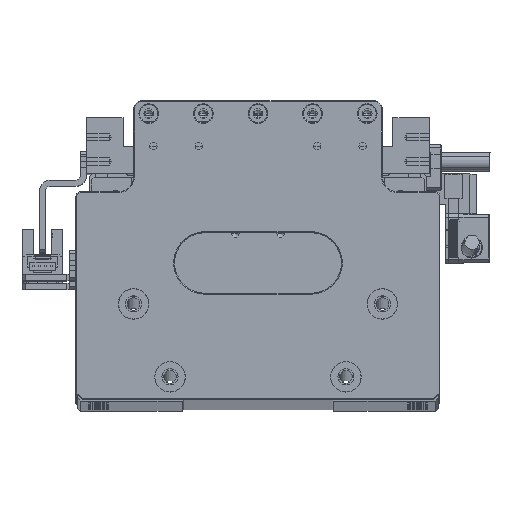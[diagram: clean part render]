
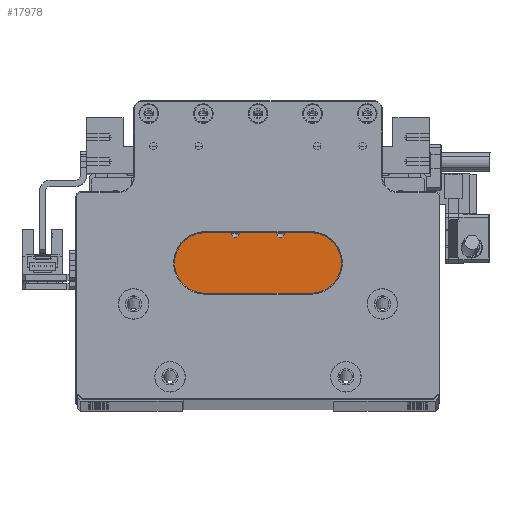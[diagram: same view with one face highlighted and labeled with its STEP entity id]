
A CAD part, top view. The second image highlights one B-rep face of the part: STEP entity #17978.
In plain terms, the highlighted planar face has unit normal (0, 0, 1).
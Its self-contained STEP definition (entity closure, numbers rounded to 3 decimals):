
#385 = FACE_BOUND ( 'NONE', #61918, .T. ) ;
#788 = EDGE_CURVE ( 'NONE', #38252, #77217, #49127, .T. ) ;
#1752 = EDGE_CURVE ( 'NONE', #101560, #66668, #42901, .T. ) ;
#6243 = ORIENTED_EDGE ( 'NONE', *, *, #83166, .T. ) ;
#6676 = VERTEX_POINT ( 'NONE', #123460 ) ;
#8572 = LINE ( 'NONE', #43003, #112143 ) ;
#9404 = CARTESIAN_POINT ( 'NONE',  ( -23.132, -17.023, 340. ) ) ;
#10060 = VECTOR ( 'NONE', #20330, 1000. ) ;
#10254 = CARTESIAN_POINT ( 'NONE',  ( -4.632, -17.023, 340. ) ) ;
#10432 = CARTESIAN_POINT ( 'NONE',  ( 25.168, -9.023, 340. ) ) ;
#10811 = AXIS2_PLACEMENT_3D ( 'NONE', #109708, #49633, #119751 ) ;
#11963 = DIRECTION ( 'NONE',  ( 0., 0., -1. ) ) ;
#12293 = EDGE_CURVE ( 'NONE', #37888, #34030, #53199, .T. ) ;
#13573 = VERTEX_POINT ( 'NONE', #130051 ) ;
#14791 = EDGE_CURVE ( 'NONE', #34030, #30795, #121655, .T. ) ;
#14899 = ORIENTED_EDGE ( 'NONE', *, *, #49570, .T. ) ;
#14935 = VECTOR ( 'NONE', #105907, 1000. ) ;
#17978 = ADVANCED_FACE ( 'NONE', ( #107111, #385, #33358 ), #40661, .T. ) ;
#19644 = VECTOR ( 'NONE', #70583, 1000. ) ;
#20330 = DIRECTION ( 'NONE',  ( -1., 0., 0. ) ) ;
#20859 = DIRECTION ( 'NONE',  ( 0., 0., 1. ) ) ;
#28572 = DIRECTION ( 'NONE',  ( 0., -1., 0. ) ) ;
#30522 = VECTOR ( 'NONE', #86237, 1000. ) ;
#30795 = VERTEX_POINT ( 'NONE', #64056 ) ;
#33075 = EDGE_CURVE ( 'NONE', #30795, #6676, #66933, .T. ) ;
#33358 = FACE_BOUND ( 'NONE', #110565, .T. ) ;
#34030 = VERTEX_POINT ( 'NONE', #9404 ) ;
#36746 = LINE ( 'NONE', #10254, #10060 ) ;
#36759 = ORIENTED_EDGE ( 'NONE', *, *, #44292, .T. ) ;
#37888 = VERTEX_POINT ( 'NONE', #55290 ) ;
#38252 = VERTEX_POINT ( 'NONE', #110056 ) ;
#38670 = CARTESIAN_POINT ( 'NONE',  ( -23.132, -9.023, 340. ) ) ;
#39703 = CARTESIAN_POINT ( 'NONE',  ( 13.868, -17.023, 340. ) ) ;
#40661 = PLANE ( 'NONE',  #41892 ) ;
#40708 = CARTESIAN_POINT ( 'NONE',  ( 2.868, -17.023, 340. ) ) ;
#41892 = AXIS2_PLACEMENT_3D ( 'NONE', #60727, #20859, #90982 ) ;
#42138 = VERTEX_POINT ( 'NONE', #39703 ) ;
#42901 = CIRCLE ( 'NONE', #83941, 1.25 ) ;
#43003 = CARTESIAN_POINT ( 'NONE',  ( -34.632, -49.023, 340. ) ) ;
#44292 = EDGE_CURVE ( 'NONE', #42138, #13573, #83845, .T. ) ;
#44456 = CARTESIAN_POINT ( 'NONE',  ( -10.882, -17.023, 340. ) ) ;
#46400 = CARTESIAN_POINT ( 'NONE',  ( 13.868, -9.023, 340. ) ) ;
#49127 = CIRCLE ( 'NONE', #10811, 1.25 ) ;
#49570 = EDGE_CURVE ( 'NONE', #78842, #96026, #67017, .T. ) ;
#49633 = DIRECTION ( 'NONE',  ( 0., 0., -1. ) ) ;
#50366 = DIRECTION ( 'NONE',  ( 0., 1., 0. ) ) ;
#50750 = DIRECTION ( 'NONE',  ( 1., 0., 0. ) ) ;
#51135 = CARTESIAN_POINT ( 'NONE',  ( 1.618, -17.023, 340. ) ) ;
#52239 = DIRECTION ( 'NONE',  ( 0., 0., -1. ) ) ;
#53199 = LINE ( 'NONE', #38670, #130127 ) ;
#54807 = DIRECTION ( 'NONE',  ( 0., -1., 0. ) ) ;
#55290 = CARTESIAN_POINT ( 'NONE',  ( -23.132, -9.223, 340. ) ) ;
#55361 = CARTESIAN_POINT ( 'NONE',  ( 25.168, -49.023, 340. ) ) ;
#55868 = CARTESIAN_POINT ( 'NONE',  ( -4.632, -17.023, 340. ) ) ;
#60488 = CARTESIAN_POINT ( 'NONE',  ( -4.632, -9.223, 340. ) ) ;
#60727 = CARTESIAN_POINT ( 'NONE',  ( -4.632, -9.023, 340. ) ) ;
#61109 = EDGE_CURVE ( 'NONE', #96026, #42138, #36746, .T. ) ;
#61918 = EDGE_LOOP ( 'NONE', ( #102856, #91996 ) ) ;
#64056 = CARTESIAN_POINT ( 'NONE',  ( -34.432, -17.023, 340. ) ) ;
#64977 = ORIENTED_EDGE ( 'NONE', *, *, #14791, .T. ) ;
#65650 = EDGE_CURVE ( 'NONE', #66668, #101560, #89020, .T. ) ;
#66668 = VERTEX_POINT ( 'NONE', #51135 ) ;
#66933 = LINE ( 'NONE', #124968, #117145 ) ;
#67017 = LINE ( 'NONE', #10432, #117250 ) ;
#68370 = EDGE_LOOP ( 'NONE', ( #77007, #83177, #64977, #85541, #118392, #14899, #94005, #36759 ) ) ;
#70583 = DIRECTION ( 'NONE',  ( -1., 0., 0. ) ) ;
#72012 = CARTESIAN_POINT ( 'NONE',  ( -12.132, -17.023, 340. ) ) ;
#73138 = DIRECTION ( 'NONE',  ( 1., 0., 0. ) ) ;
#77007 = ORIENTED_EDGE ( 'NONE', *, *, #110802, .T. ) ;
#77217 = VERTEX_POINT ( 'NONE', #44456 ) ;
#78842 = VERTEX_POINT ( 'NONE', #55361 ) ;
#82098 = DIRECTION ( 'NONE',  ( 1., 0., 0. ) ) ;
#83166 = EDGE_CURVE ( 'NONE', #77217, #38252, #83386, .T. ) ;
#83177 = ORIENTED_EDGE ( 'NONE', *, *, #12293, .T. ) ;
#83386 = CIRCLE ( 'NONE', #116284, 1.25 ) ;
#83845 = LINE ( 'NONE', #46400, #30522 ) ;
#83941 = AXIS2_PLACEMENT_3D ( 'NONE', #40708, #110798, #50750 ) ;
#85541 = ORIENTED_EDGE ( 'NONE', *, *, #33075, .T. ) ;
#86237 = DIRECTION ( 'NONE',  ( 0., 1., 0. ) ) ;
#86239 = CARTESIAN_POINT ( 'NONE',  ( 4.118, -17.023, 340. ) ) ;
#87544 = EDGE_CURVE ( 'NONE', #6676, #78842, #8572, .T. ) ;
#89020 = CIRCLE ( 'NONE', #95122, 1.25 ) ;
#90982 = DIRECTION ( 'NONE',  ( 1., 0., 0. ) ) ;
#91996 = ORIENTED_EDGE ( 'NONE', *, *, #65650, .T. ) ;
#94005 = ORIENTED_EDGE ( 'NONE', *, *, #61109, .T. ) ;
#95038 = ORIENTED_EDGE ( 'NONE', *, *, #788, .T. ) ;
#95122 = AXIS2_PLACEMENT_3D ( 'NONE', #112282, #52239, #122400 ) ;
#96026 = VERTEX_POINT ( 'NONE', #104698 ) ;
#99680 = LINE ( 'NONE', #60488, #19644 ) ;
#101560 = VERTEX_POINT ( 'NONE', #86239 ) ;
#102856 = ORIENTED_EDGE ( 'NONE', *, *, #1752, .T. ) ;
#104698 = CARTESIAN_POINT ( 'NONE',  ( 25.168, -17.023, 340. ) ) ;
#105907 = DIRECTION ( 'NONE',  ( -1., 0., 0. ) ) ;
#107111 = FACE_OUTER_BOUND ( 'NONE', #68370, .T. ) ;
#109708 = CARTESIAN_POINT ( 'NONE',  ( -12.132, -17.023, 340. ) ) ;
#110056 = CARTESIAN_POINT ( 'NONE',  ( -13.382, -17.023, 340. ) ) ;
#110565 = EDGE_LOOP ( 'NONE', ( #6243, #95038 ) ) ;
#110798 = DIRECTION ( 'NONE',  ( 0., 0., -1. ) ) ;
#110802 = EDGE_CURVE ( 'NONE', #13573, #37888, #99680, .T. ) ;
#112143 = VECTOR ( 'NONE', #73138, 1000. ) ;
#112282 = CARTESIAN_POINT ( 'NONE',  ( 2.868, -17.023, 340. ) ) ;
#116284 = AXIS2_PLACEMENT_3D ( 'NONE', #72012, #11963, #82098 ) ;
#117145 = VECTOR ( 'NONE', #54807, 1000. ) ;
#117250 = VECTOR ( 'NONE', #50366, 1000. ) ;
#118392 = ORIENTED_EDGE ( 'NONE', *, *, #87544, .T. ) ;
#119751 = DIRECTION ( 'NONE',  ( 1., 0., 0. ) ) ;
#121655 = LINE ( 'NONE', #55868, #14935 ) ;
#122400 = DIRECTION ( 'NONE',  ( 1., 0., 0. ) ) ;
#123460 = CARTESIAN_POINT ( 'NONE',  ( -34.432, -49.023, 340. ) ) ;
#124968 = CARTESIAN_POINT ( 'NONE',  ( -34.432, -9.023, 340. ) ) ;
#130051 = CARTESIAN_POINT ( 'NONE',  ( 13.868, -9.223, 340. ) ) ;
#130127 = VECTOR ( 'NONE', #28572, 1000. ) ;
